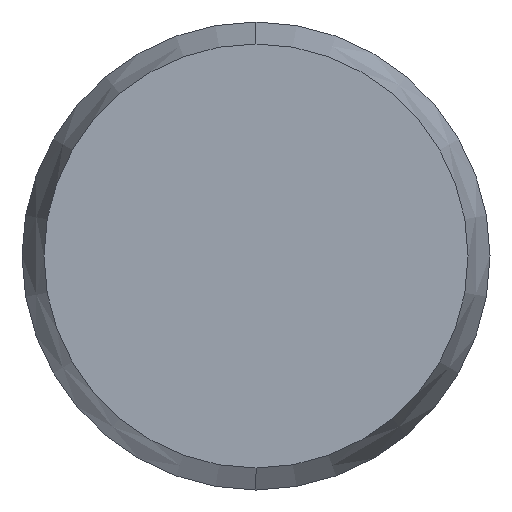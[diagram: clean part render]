
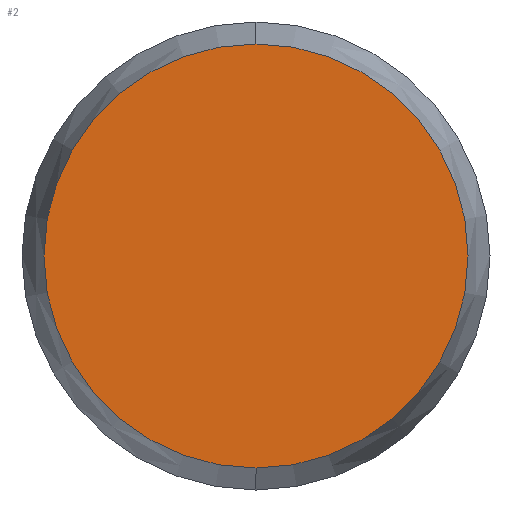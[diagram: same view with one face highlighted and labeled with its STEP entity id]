
A CAD part, left-side view. The second image highlights one B-rep face of the part: STEP entity #2.
In plain terms, the highlighted planar face has unit normal (-1, 0, 0).
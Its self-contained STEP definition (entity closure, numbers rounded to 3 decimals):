
#2 = ADVANCED_FACE ( 'NONE', ( #95 ), #94, .F. ) ;
#3 = EDGE_LOOP ( 'NONE', ( #57, #58 ) ) ;
#19 = VERTEX_POINT ( 'NONE', #270 ) ;
#20 = EDGE_CURVE ( 'NONE', #19, #21, #275, .T. ) ;
#21 = VERTEX_POINT ( 'NONE', #241 ) ;
#57 = ORIENTED_EDGE ( 'NONE', *, *, #20, .F. ) ;
#58 = ORIENTED_EDGE ( 'NONE', *, *, #67, .F. ) ;
#67 = EDGE_CURVE ( 'NONE', #21, #19, #102, .T. ) ;
#90 = DIRECTION ( 'NONE',  ( 0., 0., -1. ) ) ;
#91 = DIRECTION ( 'NONE',  ( 1., 0., 0. ) ) ;
#92 = CARTESIAN_POINT ( 'NONE',  ( -4., 0., 0. ) ) ;
#93 = AXIS2_PLACEMENT_3D ( 'NONE', #92, #91, #90 ) ;
#94 = PLANE ( 'NONE',  #93 ) ;
#95 = FACE_OUTER_BOUND ( 'NONE', #3, .T. ) ;
#98 = DIRECTION ( 'NONE',  ( 0., 0., -1. ) ) ;
#99 = DIRECTION ( 'NONE',  ( 1., 0., 0. ) ) ;
#100 = CARTESIAN_POINT ( 'NONE',  ( -4., 0., 0. ) ) ;
#101 = AXIS2_PLACEMENT_3D ( 'NONE', #100, #99, #98 ) ;
#102 = CIRCLE ( 'NONE', #101, 1.812 ) ;
#241 = CARTESIAN_POINT ( 'NONE',  ( -4., 0., -1.812 ) ) ;
#242 = DIRECTION ( 'NONE',  ( 0., 0., -1. ) ) ;
#243 = DIRECTION ( 'NONE',  ( 1., 0., 0. ) ) ;
#244 = CARTESIAN_POINT ( 'NONE',  ( -4., 0., 0. ) ) ;
#245 = AXIS2_PLACEMENT_3D ( 'NONE', #244, #243, #242 ) ;
#270 = CARTESIAN_POINT ( 'NONE',  ( -4., 0., 1.812 ) ) ;
#275 = CIRCLE ( 'NONE', #245, 1.812 ) ;
